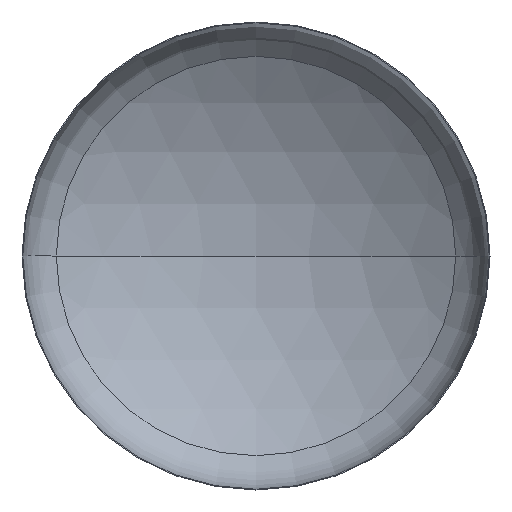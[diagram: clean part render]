
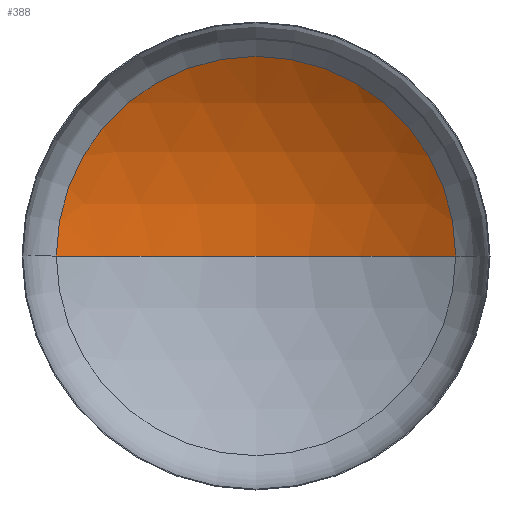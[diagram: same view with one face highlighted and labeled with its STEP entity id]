
A CAD part, front view. The second image highlights one B-rep face of the part: STEP entity #388.
In plain terms, the highlighted spherical face has radius 6400 mm.
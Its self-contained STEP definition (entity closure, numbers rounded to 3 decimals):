
#10 = DIRECTION ( 'NONE',  ( -1., 0., 0. ) ) ;
#19 = VERTEX_POINT ( 'NONE', #292 ) ;
#20 = DIRECTION ( 'NONE',  ( 0., 0., -1. ) ) ;
#44 = VERTEX_POINT ( 'NONE', #247 ) ;
#46 = ORIENTED_EDGE ( 'NONE', *, *, #189, .T. ) ;
#62 = SPHERICAL_SURFACE ( 'NONE', #154, 6400. ) ;
#63 = VERTEX_POINT ( 'NONE', #233 ) ;
#79 = AXIS2_PLACEMENT_3D ( 'NONE', #294, #243, #377 ) ;
#89 = AXIS2_PLACEMENT_3D ( 'NONE', #399, #20, #10 ) ;
#93 = AXIS2_PLACEMENT_3D ( 'NONE', #187, #147, #341 ) ;
#104 = CARTESIAN_POINT ( 'NONE',  ( 0., -4333.54, 0. ) ) ;
#112 = DIRECTION ( 'NONE',  ( 0., 0., -1. ) ) ;
#125 = ORIENTED_EDGE ( 'NONE', *, *, #192, .F. ) ;
#130 = EDGE_LOOP ( 'NONE', ( #125, #46, #401 ) ) ;
#147 = DIRECTION ( 'NONE',  ( 0., -1., 0. ) ) ;
#154 = AXIS2_PLACEMENT_3D ( 'NONE', #104, #112, #405 ) ;
#185 = CIRCLE ( 'NONE', #89, 6400. ) ;
#187 = CARTESIAN_POINT ( 'NONE',  ( 0., 1080.513, 0. ) ) ;
#188 = EDGE_CURVE ( 'NONE', #44, #63, #263, .T. ) ;
#189 = EDGE_CURVE ( 'NONE', #19, #44, #185, .T. ) ;
#192 = EDGE_CURVE ( 'NONE', #19, #63, #371, .T. ) ;
#233 = CARTESIAN_POINT ( 'NONE',  ( -3412.921, 1080.513, 0. ) ) ;
#243 = DIRECTION ( 'NONE',  ( 0., 0., 1. ) ) ;
#247 = CARTESIAN_POINT ( 'NONE',  ( 3412.921, 1080.513, 0. ) ) ;
#263 = CIRCLE ( 'NONE', #93, 3412.921 ) ;
#292 = CARTESIAN_POINT ( 'NONE',  ( 0., 2066.46, 0. ) ) ;
#294 = CARTESIAN_POINT ( 'NONE',  ( 0., -4333.54, 0. ) ) ;
#333 = FACE_OUTER_BOUND ( 'NONE', #130, .T. ) ;
#341 = DIRECTION ( 'NONE',  ( 1., 0., 0. ) ) ;
#371 = CIRCLE ( 'NONE', #79, 6400. ) ;
#377 = DIRECTION ( 'NONE',  ( 1., 0., 0. ) ) ;
#388 = ADVANCED_FACE ( 'NONE', ( #333 ), #62, .F. ) ;
#399 = CARTESIAN_POINT ( 'NONE',  ( 0., -4333.54, 0. ) ) ;
#401 = ORIENTED_EDGE ( 'NONE', *, *, #188, .T. ) ;
#405 = DIRECTION ( 'NONE',  ( -1., 0., 0. ) ) ;
